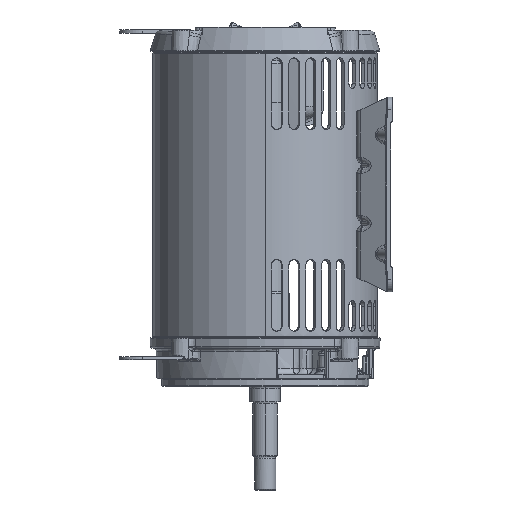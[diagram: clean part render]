
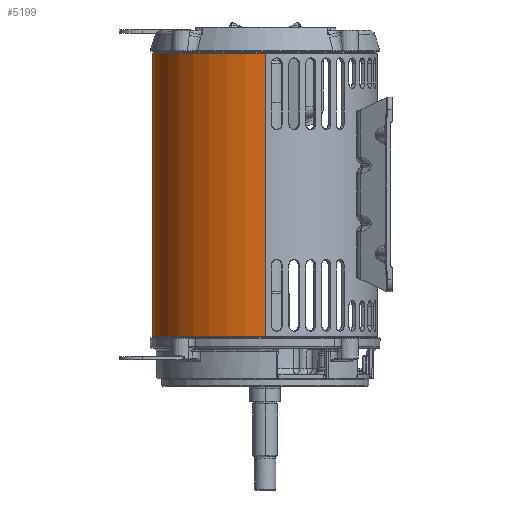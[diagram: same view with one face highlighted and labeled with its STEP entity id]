
A CAD part, left-side view. The second image highlights one B-rep face of the part: STEP entity #5199.
In plain terms, the highlighted cylindrical face has radius 116.967 mm (diameter 233.934 mm), a partial arc.
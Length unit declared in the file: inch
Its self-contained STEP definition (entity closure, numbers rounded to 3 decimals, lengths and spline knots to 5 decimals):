
#1523=DIRECTION('',(0.,0.,1.));
#1524=VECTOR('',#1523,9.669);
#1525=CARTESIAN_POINT('',(-4.605,0.,-3.858));
#1526=LINE('',#1525,#1524);
#1537=DIRECTION('',(0.,0.,1.));
#1538=VECTOR('',#1537,0.333);
#1539=CARTESIAN_POINT('',(-4.605,0.,-5.811));
#1540=LINE('',#1539,#1538);
#2955=CARTESIAN_POINT('',(-4.54677,0.73,-4.0475));
#2956=CARTESIAN_POINT('',(-4.54466,0.74313,-4.0475));
#2957=CARTESIAN_POINT('',(-4.5406,0.76774,
-4.04309));
#2958=CARTESIAN_POINT('',(-4.53469,0.80183,
-4.0237));
#2959=CARTESIAN_POINT('',(-4.53018,0.82679,
-3.99379));
#2960=CARTESIAN_POINT('',(-4.52775,0.83996,
-3.95769));
#2961=CARTESIAN_POINT('',(-4.52772,0.84012,
-3.91896));
#2962=CARTESIAN_POINT('',(-4.53015,0.82698,
-3.88259));
#2963=CARTESIAN_POINT('',(-4.53458,0.80248,
-3.85285));
#2964=CARTESIAN_POINT('',(-4.54055,0.76806,
-3.83296));
#2965=CARTESIAN_POINT('',(-4.54464,0.74326,-3.8285));
#2966=CARTESIAN_POINT('',(-4.54677,0.73,-3.8285));
#2968=CARTESIAN_POINT('',(-4.54677,0.73,-3.8285));
#2969=CARTESIAN_POINT('',(-4.54888,0.71689,-3.8285));
#2970=CARTESIAN_POINT('',(-4.55271,0.69231,
-3.8329));
#2971=CARTESIAN_POINT('',(-4.55774,0.65828,
-3.85222));
#2972=CARTESIAN_POINT('',(-4.56126,0.63327,
-3.88209));
#2973=CARTESIAN_POINT('',(-4.56307,0.62003,
-3.91825));
#2974=CARTESIAN_POINT('',(-4.56309,0.61988,
-3.9571));
#2975=CARTESIAN_POINT('',(-4.56129,0.63309,
-3.99355));
#2976=CARTESIAN_POINT('',(-4.55783,0.65765,
-4.02325));
#2977=CARTESIAN_POINT('',(-4.55276,0.69201,
-4.04306));
#2978=CARTESIAN_POINT('',(-4.54889,0.71677,-4.0475));
#2979=CARTESIAN_POINT('',(-4.54677,0.73,-4.0475));
#2981=CARTESIAN_POINT('',(-4.54385,0.74797,
-4.35713));
#2982=CARTESIAN_POINT('',(-4.54429,0.74526,
-4.35062));
#2983=CARTESIAN_POINT('',(-4.54534,0.73889,
-4.33823));
#2984=CARTESIAN_POINT('',(-4.54735,0.72642,
-4.32132));
#2985=CARTESIAN_POINT('',(-4.54972,0.71147,
-4.30669));
#2986=CARTESIAN_POINT('',(-4.55235,0.69441,
-4.29466));
#2987=CARTESIAN_POINT('',(-4.55518,0.67564,
-4.2855));
#2988=CARTESIAN_POINT('',(-4.55711,0.6624,
-4.28148));
#2989=CARTESIAN_POINT('',(-4.5581,0.65557,
-4.27999));
#2991=CARTESIAN_POINT('',(-4.605,0.,-5.478));
#2992=CARTESIAN_POINT('',(-4.605,0.02792,-5.478));
#2993=CARTESIAN_POINT('',(-4.6045,0.08356,
-5.47514));
#2994=CARTESIAN_POINT('',(-4.60221,0.16719,
-5.46206));
#2995=CARTESIAN_POINT('',(-4.59851,0.24864,
-5.44041));
#2996=CARTESIAN_POINT('',(-4.59362,0.32646,
-5.41083));
#2997=CARTESIAN_POINT('',(-4.58774,0.40058,
-5.37369));
#2998=CARTESIAN_POINT('',(-4.58073,0.47413,
-5.32681));
#2999=CARTESIAN_POINT('',(-4.57248,0.548,
-5.26723));
#3000=CARTESIAN_POINT('',(-4.56302,0.62185,
-5.19118));
#3001=CARTESIAN_POINT('',(-4.55261,0.69382,
-5.09252));
#3002=CARTESIAN_POINT('',(-4.54268,0.75572,
-4.97132));
#3003=CARTESIAN_POINT('',(-4.53501,0.79998,
-4.82448));
#3004=CARTESIAN_POINT('',(-4.5322,0.81556,
-4.66368));
#3005=CARTESIAN_POINT('',(-4.53542,0.79771,
-4.5003));
#3006=CARTESIAN_POINT('',(-4.54066,0.76736,
-4.40378));
#3007=CARTESIAN_POINT('',(-4.54385,0.74797,
-4.35713));
#3009=CARTESIAN_POINT('',(0.,0.,-5.811));
#3010=DIRECTION('',(0.,0.,-1.));
#3011=DIRECTION('',(-1.,0.,0.));
#3012=AXIS2_PLACEMENT_3D('',#3009,#3010,#3011);
#3014=DIRECTION('',(0.,0.,1.));
#3015=VECTOR('',#3014,11.622);
#3016=CARTESIAN_POINT('',(4.605,0.,-5.811));
#3017=LINE('',#3016,#3015);
#3018=CARTESIAN_POINT('',(0.,0.,5.811));
#3019=DIRECTION('',(0.,0.,1.));
#3020=DIRECTION('',(1.,0.,0.));
#3021=AXIS2_PLACEMENT_3D('',#3018,#3019,#3020);
#3023=CARTESIAN_POINT('',(-4.59449,0.31087,
-3.92003));
#3024=CARTESIAN_POINT('',(-4.59673,0.27789,
-3.90632));
#3025=CARTESIAN_POINT('',(-4.60056,0.21084,
-3.8835));
#3026=CARTESIAN_POINT('',(-4.60419,0.10588,
-3.8626));
#3027=CARTESIAN_POINT('',(-4.605,0.03549,-3.858));
#3028=CARTESIAN_POINT('',(-4.605,0.,-3.858));
#3030=CARTESIAN_POINT('',(-4.58862,0.38801,
-4.01243));
#3031=CARTESIAN_POINT('',(-4.58875,0.38651,
-4.00557));
#3032=CARTESIAN_POINT('',(-4.58909,0.38247,
-3.99228));
#3033=CARTESIAN_POINT('',(-4.58985,0.37326,
-3.97344));
#3034=CARTESIAN_POINT('',(-4.59082,0.36117,
-3.95637));
#3035=CARTESIAN_POINT('',(-4.59195,0.34653,
-3.94145));
#3036=CARTESIAN_POINT('',(-4.5932,0.32966,
-3.92905));
#3037=CARTESIAN_POINT('',(-4.59406,0.31734,
-3.92272));
#3038=CARTESIAN_POINT('',(-4.59449,0.31087,
-3.92003));
#3040=CARTESIAN_POINT('',(-4.5581,0.65557,
-4.27999));
#3041=CARTESIAN_POINT('',(-4.56079,0.63686,
-4.27592));
#3042=CARTESIAN_POINT('',(-4.56577,0.60062,
-4.26487));
#3043=CARTESIAN_POINT('',(-4.57223,0.54914,
-4.23947));
#3044=CARTESIAN_POINT('',(-4.57756,0.50258,
-4.20609));
#3045=CARTESIAN_POINT('',(-4.58181,0.46203,
-4.16556));
#3046=CARTESIAN_POINT('',(-4.58504,0.42862,
-4.11902));
#3047=CARTESIAN_POINT('',(-4.58733,0.40317,
-4.06748));
#3048=CARTESIAN_POINT('',(-4.58828,0.39209,
-4.03119));
#3049=CARTESIAN_POINT('',(-4.58862,0.38801,
-4.01243));
#3901=CARTESIAN_POINT('',(-4.605,0.,-5.811));
#3902=CARTESIAN_POINT('',(4.605,0.,-5.811));
#3903=VERTEX_POINT('',#3901);
#3904=VERTEX_POINT('',#3902);
#3905=CARTESIAN_POINT('',(4.605,0.,5.811));
#3906=VERTEX_POINT('',#3905);
#3931=CARTESIAN_POINT('',(-4.605,0.,5.811));
#3932=VERTEX_POINT('',#3931);
#3933=VERTEX_POINT('',#2955);
#3934=VERTEX_POINT('',#2966);
#3935=VERTEX_POINT('',#2981);
#3936=VERTEX_POINT('',#2989);
#3937=VERTEX_POINT('',#3049);
#3938=VERTEX_POINT('',#3038);
#3939=VERTEX_POINT('',#3028);
#3940=VERTEX_POINT('',#2991);
#5170=CARTESIAN_POINT('',(0.,0.,-6.015));
#5171=DIRECTION('',(0.,0.,1.));
#5172=DIRECTION('',(1.,0.,0.));
#5173=AXIS2_PLACEMENT_3D('',#5170,#5171,#5172);
#5174=CYLINDRICAL_SURFACE('',#5173,4.605);
#5176=ORIENTED_EDGE('',*,*,#5175,.F.);
#5178=ORIENTED_EDGE('',*,*,#5177,.F.);
#5179=ORIENTED_EDGE('',*,*,#4762,.F.);
#5181=ORIENTED_EDGE('',*,*,#5180,.T.);
#5182=ORIENTED_EDGE('',*,*,#4758,.T.);
#5184=ORIENTED_EDGE('',*,*,#5183,.T.);
#5185=ORIENTED_EDGE('',*,*,#4754,.F.);
#5186=ORIENTED_EDGE('',*,*,#5157,.F.);
#5188=ORIENTED_EDGE('',*,*,#5187,.F.);
#5190=ORIENTED_EDGE('',*,*,#5189,.F.);
#5191=EDGE_LOOP('',(#5176,#5178,#5179,#5181,#5182,#5184,#5185,#5186,#5188,
#5190));
#5192=FACE_OUTER_BOUND('',#5191,.F.);
#5194=ORIENTED_EDGE('',*,*,#5193,.F.);
#5196=ORIENTED_EDGE('',*,*,#5195,.F.);
#5197=EDGE_LOOP('',(#5194,#5196));
#5198=FACE_BOUND('',#5197,.F.);
#5199=ADVANCED_FACE('',(#5192,#5198),#5174,.T.);
#2967=B_SPLINE_CURVE_WITH_KNOTS('',3,(#2955,#2956,#2957,#2958,#2959,#2960,#2961,
#2962,#2963,#2964,#2965,#2966),.UNSPECIFIED.,.F.,.F.,(4,1,1,1,1,1,1,1,1,4),
(0.,0.11111,0.22222,0.33333,0.44444,
0.55556,0.66667,0.77778,0.88889,1.),
.UNSPECIFIED.);
#2980=B_SPLINE_CURVE_WITH_KNOTS('',3,(#2968,#2969,#2970,#2971,#2972,#2973,#2974,
#2975,#2976,#2977,#2978,#2979),.UNSPECIFIED.,.F.,.F.,(4,1,1,1,1,1,1,1,1,4),
(0.,0.11111,0.22222,0.33333,0.44444,
0.55556,0.66667,0.77778,0.88889,1.),
.UNSPECIFIED.);
#2990=B_SPLINE_CURVE_WITH_KNOTS('',3,(#2981,#2982,#2983,#2984,#2985,#2986,#2987,
#2988,#2989),.UNSPECIFIED.,.F.,.F.,(4,1,1,1,1,1,4),(0.,0.16667,
0.33333,0.5,0.66667,0.83333,1.),
.UNSPECIFIED.);
#3008=B_SPLINE_CURVE_WITH_KNOTS('',3,(#2991,#2992,#2993,#2994,#2995,#2996,#2997,
#2998,#2999,#3000,#3001,#3002,#3003,#3004,#3005,#3006,#3007),.UNSPECIFIED.,.F.,
.F.,(4,1,1,1,1,1,1,1,1,1,1,1,1,1,4),(0.,0.07143,0.14286,
0.21429,0.28571,0.35714,0.42857,0.5,
0.57143,0.64286,0.71429,0.78571,
0.85714,0.92857,1.),.UNSPECIFIED.);
#3013=CIRCLE('',#3012,4.605);
#3022=CIRCLE('',#3021,4.605);
#3029=B_SPLINE_CURVE_WITH_KNOTS('',3,(#3023,#3024,#3025,#3026,#3027,#3028),
.UNSPECIFIED.,.F.,.F.,(4,1,1,4),(0.,0.33333,0.66667,1.),
.UNSPECIFIED.);
#3039=B_SPLINE_CURVE_WITH_KNOTS('',3,(#3030,#3031,#3032,#3033,#3034,#3035,#3036,
#3037,#3038),.UNSPECIFIED.,.F.,.F.,(4,1,1,1,1,1,4),(0.,0.16667,
0.33333,0.5,0.66667,0.83333,1.),
.UNSPECIFIED.);
#3050=B_SPLINE_CURVE_WITH_KNOTS('',3,(#3040,#3041,#3042,#3043,#3044,#3045,#3046,
#3047,#3048,#3049),.UNSPECIFIED.,.F.,.F.,(4,1,1,1,1,1,1,4),(0.,
0.14286,0.28571,0.42857,0.57143,
0.71429,0.85714,1.),.UNSPECIFIED.);
#4754=EDGE_CURVE('',#3939,#3932,#1526,.T.);
#4758=EDGE_CURVE('',#3904,#3906,#3017,.T.);
#4762=EDGE_CURVE('',#3903,#3940,#1540,.T.);
#5157=EDGE_CURVE('',#3938,#3939,#3029,.T.);
#5175=EDGE_CURVE('',#3935,#3936,#2990,.T.);
#5177=EDGE_CURVE('',#3940,#3935,#3008,.T.);
#5180=EDGE_CURVE('',#3903,#3904,#3013,.T.);
#5183=EDGE_CURVE('',#3906,#3932,#3022,.T.);
#5187=EDGE_CURVE('',#3937,#3938,#3039,.T.);
#5189=EDGE_CURVE('',#3936,#3937,#3050,.T.);
#5193=EDGE_CURVE('',#3933,#3934,#2967,.T.);
#5195=EDGE_CURVE('',#3934,#3933,#2980,.T.);
